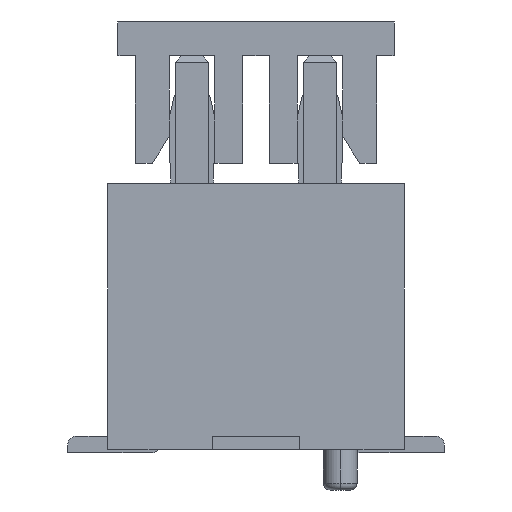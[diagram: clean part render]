
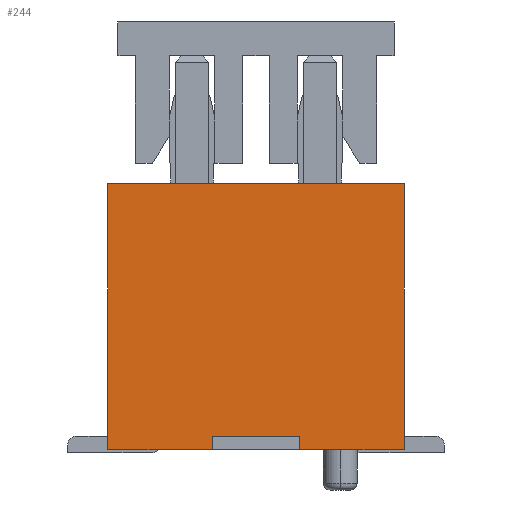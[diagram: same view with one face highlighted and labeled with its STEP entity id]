
A CAD part, left-side view. The second image highlights one B-rep face of the part: STEP entity #244.
In plain terms, the highlighted planar face has unit normal (-1, 0, 0).
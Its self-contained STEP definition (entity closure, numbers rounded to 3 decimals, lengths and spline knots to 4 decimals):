
#173=CARTESIAN_POINT('Axis2P3D Location',(-8.6,0.,0.)) ;
#178=CARTESIAN_POINT('Line Origine',(-8.6,0.65,0.1)) ;
#182=CARTESIAN_POINT('Vertex',(-8.6,0.65,0.)) ;
#184=CARTESIAN_POINT('Vertex',(-8.6,0.65,0.2)) ;
#187=CARTESIAN_POINT('Line Origine',(-8.6,0.,0.2)) ;
#191=CARTESIAN_POINT('Vertex',(-8.6,-0.65,0.2)) ;
#194=CARTESIAN_POINT('Line Origine',(-8.6,-0.65,0.1)) ;
#198=CARTESIAN_POINT('Vertex',(-8.6,-0.65,0.)) ;
#201=CARTESIAN_POINT('Line Origine',(-8.6,-1.425,0.)) ;
#205=CARTESIAN_POINT('Vertex',(-8.6,-2.2,0.)) ;
#208=CARTESIAN_POINT('Line Origine',(-8.6,-2.2,1.975)) ;
#212=CARTESIAN_POINT('Vertex',(-8.6,-2.2,3.95)) ;
#215=CARTESIAN_POINT('Line Origine',(-8.6,0.,3.95)) ;
#219=CARTESIAN_POINT('Vertex',(-8.6,2.2,3.95)) ;
#222=CARTESIAN_POINT('Line Origine',(-8.6,2.2,1.975)) ;
#226=CARTESIAN_POINT('Vertex',(-8.6,2.2,0.)) ;
#229=CARTESIAN_POINT('Line Origine',(-8.6,1.425,0.)) ;
#174=DIRECTION('Axis2P3D Direction',(1.,0.,0.)) ;
#175=DIRECTION('Axis2P3D XDirection',(0.,1.,0.)) ;
#179=DIRECTION('Vector Direction',(0.,0.,1.)) ;
#188=DIRECTION('Vector Direction',(0.,1.,0.)) ;
#195=DIRECTION('Vector Direction',(0.,0.,1.)) ;
#202=DIRECTION('Vector Direction',(0.,1.,0.)) ;
#209=DIRECTION('Vector Direction',(0.,0.,-1.)) ;
#216=DIRECTION('Vector Direction',(0.,1.,0.)) ;
#223=DIRECTION('Vector Direction',(0.,0.,-1.)) ;
#230=DIRECTION('Vector Direction',(0.,1.,0.)) ;
#176=AXIS2_PLACEMENT_3D('Plane Axis2P3D',#173,#174,#175) ;
#235=ORIENTED_EDGE('',*,*,#186,.T.) ;
#236=ORIENTED_EDGE('',*,*,#193,.F.) ;
#237=ORIENTED_EDGE('',*,*,#200,.F.) ;
#238=ORIENTED_EDGE('',*,*,#207,.F.) ;
#239=ORIENTED_EDGE('',*,*,#214,.F.) ;
#240=ORIENTED_EDGE('',*,*,#221,.F.) ;
#241=ORIENTED_EDGE('',*,*,#228,.F.) ;
#242=ORIENTED_EDGE('',*,*,#233,.F.) ;
#180=VECTOR('Line Direction',#179,1.) ;
#189=VECTOR('Line Direction',#188,1.) ;
#196=VECTOR('Line Direction',#195,1.) ;
#203=VECTOR('Line Direction',#202,1.) ;
#210=VECTOR('Line Direction',#209,1.) ;
#217=VECTOR('Line Direction',#216,1.) ;
#224=VECTOR('Line Direction',#223,1.) ;
#231=VECTOR('Line Direction',#230,1.) ;
#244=ADVANCED_FACE('\X2\96F64EF651E04F554F53\X0\',(#243),#177,.F.) ;
#186=EDGE_CURVE('',#183,#185,#181,.T.) ;
#193=EDGE_CURVE('',#192,#185,#190,.T.) ;
#200=EDGE_CURVE('',#199,#192,#197,.T.) ;
#207=EDGE_CURVE('',#206,#199,#204,.T.) ;
#214=EDGE_CURVE('',#213,#206,#211,.T.) ;
#221=EDGE_CURVE('',#220,#213,#218,.F.) ;
#228=EDGE_CURVE('',#227,#220,#225,.F.) ;
#233=EDGE_CURVE('',#183,#227,#232,.T.) ;
#234=EDGE_LOOP('',(#235,#236,#237,#238,#239,#240,#241,#242)) ;
#243=FACE_OUTER_BOUND('',#234,.T.) ;
#181=LINE('Line',#178,#180) ;
#190=LINE('Line',#187,#189) ;
#197=LINE('Line',#194,#196) ;
#204=LINE('Line',#201,#203) ;
#211=LINE('Line',#208,#210) ;
#218=LINE('Line',#215,#217) ;
#225=LINE('Line',#222,#224) ;
#232=LINE('Line',#229,#231) ;
#177=PLANE('Plane',#176) ;
#183=VERTEX_POINT('',#182) ;
#185=VERTEX_POINT('',#184) ;
#192=VERTEX_POINT('',#191) ;
#199=VERTEX_POINT('',#198) ;
#206=VERTEX_POINT('',#205) ;
#213=VERTEX_POINT('',#212) ;
#220=VERTEX_POINT('',#219) ;
#227=VERTEX_POINT('',#226) ;
